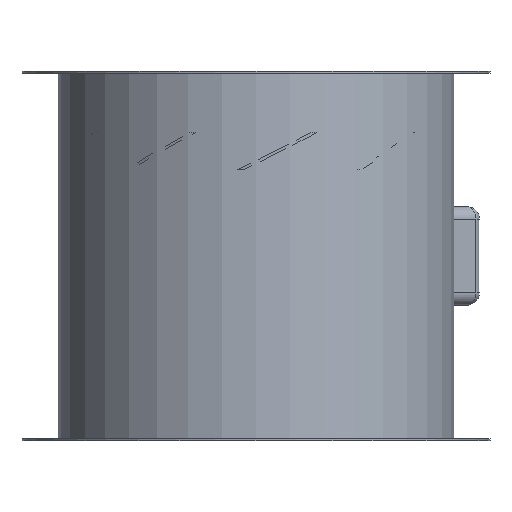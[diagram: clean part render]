
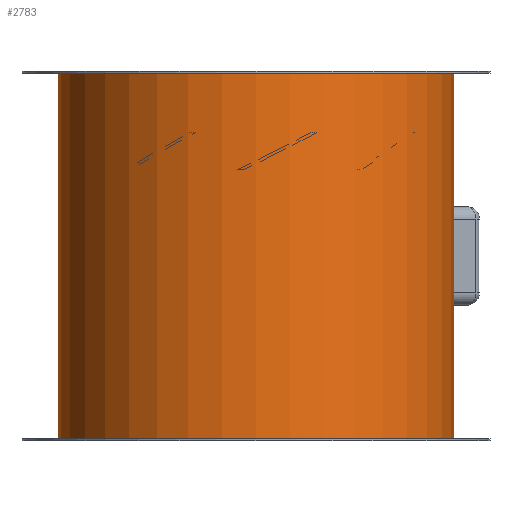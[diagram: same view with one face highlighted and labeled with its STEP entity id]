
A CAD part, front view. The second image highlights one B-rep face of the part: STEP entity #2783.
In plain terms, the highlighted cylindrical face has radius 160.5 mm (diameter 321 mm), a full revolution.
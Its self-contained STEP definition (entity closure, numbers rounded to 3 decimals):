
#56=FACE_BOUND('',#993,.T.);
#57=FACE_BOUND('',#994,.T.);
#346=B_SPLINE_CURVE_WITH_KNOTS('',3,(#3806,#3807,#3808,#3809,#3810,#3811,
#3812,#3813,#3814,#3815),.UNSPECIFIED.,.F.,.F.,(4,2,2,2,4),(-1.522,
-1.138,-0.753,-0.377,0.),
 .UNSPECIFIED.);
#347=B_SPLINE_CURVE_WITH_KNOTS('',3,(#3841,#3842,#3843,#3844,#3845,#3846,
#3847,#3848,#3849,#3850),.UNSPECIFIED.,.F.,.F.,(4,2,2,2,4),(0.,0.377,
0.753,1.138,1.522),.UNSPECIFIED.);
#348=B_SPLINE_CURVE_WITH_KNOTS('',3,(#3856,#3857,#3858,#3859,#3860,#3861,
#3862,#3863,#3864,#3865),.UNSPECIFIED.,.F.,.F.,(4,2,2,2,4),(1.515,
1.899,2.284,2.66,3.037),
 .UNSPECIFIED.);
#349=B_SPLINE_CURVE_WITH_KNOTS('',3,(#3874,#3875,#3876,#3877,#3878,#3879,
#3880,#3881,#3882,#3883),.UNSPECIFIED.,.F.,.F.,(4,2,2,2,4),(3.037,
3.416,3.795,4.177,4.559),
 .UNSPECIFIED.);
#426=LINE('',#3889,#552);
#467=LINE('',#4341,#593);
#552=VECTOR('',#3157,10.);
#593=VECTOR('',#3284,10.);
#700=CYLINDRICAL_SURFACE('',#3069,160.5);
#833=FACE_OUTER_BOUND('',#992,.T.);
#992=EDGE_LOOP('',(#2554));
#993=EDGE_LOOP('',(#2555,#2556,#2557,#2558,#2559,#2560,#2561,#2562));
#994=EDGE_LOOP('',(#2563));
#1063=CIRCLE('',#2824,160.5);
#1094=CIRCLE('',#2870,160.5);
#1176=CIRCLE('',#3070,160.5);
#1177=CIRCLE('',#3071,160.5);
#1190=VERTEX_POINT('',#3804);
#1191=VERTEX_POINT('',#3805);
#1198=VERTEX_POINT('',#3839);
#1199=VERTEX_POINT('',#3840);
#1200=VERTEX_POINT('',#3854);
#1201=VERTEX_POINT('',#3855);
#1202=VERTEX_POINT('',#3872);
#1203=VERTEX_POINT('',#3873);
#1457=VERTEX_POINT('',#5412);
#1458=VERTEX_POINT('',#5414);
#1473=EDGE_CURVE('',#1190,#1191,#346,.F.);
#1486=EDGE_CURVE('',#1198,#1199,#347,.F.);
#1489=EDGE_CURVE('',#1200,#1201,#348,.F.);
#1494=EDGE_CURVE('',#1202,#1203,#349,.F.);
#1497=EDGE_CURVE('',#1198,#1191,#1063,.T.);
#1498=EDGE_CURVE('',#1190,#1203,#426,.T.);
#1589=EDGE_CURVE('',#1200,#1199,#467,.T.);
#1590=EDGE_CURVE('',#1202,#1201,#1094,.T.);
#1852=EDGE_CURVE('',#1457,#1457,#1176,.F.);
#1853=EDGE_CURVE('',#1458,#1458,#1177,.T.);
#2554=ORIENTED_EDGE('',*,*,#1852,.T.);
#2555=ORIENTED_EDGE('',*,*,#1497,.T.);
#2556=ORIENTED_EDGE('',*,*,#1473,.F.);
#2557=ORIENTED_EDGE('',*,*,#1498,.T.);
#2558=ORIENTED_EDGE('',*,*,#1494,.F.);
#2559=ORIENTED_EDGE('',*,*,#1590,.T.);
#2560=ORIENTED_EDGE('',*,*,#1489,.F.);
#2561=ORIENTED_EDGE('',*,*,#1589,.T.);
#2562=ORIENTED_EDGE('',*,*,#1486,.F.);
#2563=ORIENTED_EDGE('',*,*,#1853,.T.);
#2783=ADVANCED_FACE('',(#833,#56,#57),#700,.T.);
#2824=AXIS2_PLACEMENT_3D('',#3887,#3153,#3154);
#2870=AXIS2_PLACEMENT_3D('',#4343,#3287,#3288);
#3069=AXIS2_PLACEMENT_3D('',#5411,#3753,#3754);
#3070=AXIS2_PLACEMENT_3D('',#5413,#3755,#3756);
#3071=AXIS2_PLACEMENT_3D('',#5415,#3757,#3758);
#3153=DIRECTION('center_axis',(0.,0.,-1.));
#3154=DIRECTION('ref_axis',(-1.,0.,0.));
#3157=DIRECTION('',(0.,0.,1.));
#3284=DIRECTION('',(0.,0.,-1.));
#3287=DIRECTION('center_axis',(0.,0.,1.));
#3288=DIRECTION('ref_axis',(-1.,0.,0.));
#3753=DIRECTION('center_axis',(0.,0.,1.));
#3754=DIRECTION('ref_axis',(-1.,0.,0.));
#3755=DIRECTION('center_axis',(0.,0.,-1.));
#3756=DIRECTION('ref_axis',(-1.,0.,0.));
#3757=DIRECTION('center_axis',(0.,0.,-1.));
#3758=DIRECTION('ref_axis',(-1.,0.,0.));
#3804=CARTESIAN_POINT('',(136.866,83.833,-30.));
#3805=CARTESIAN_POINT('',(131.258,92.367,-40.));
#3806=CARTESIAN_POINT('Ctrl Pts',(131.258,92.367,-40.));
#3807=CARTESIAN_POINT('Ctrl Pts',(131.995,91.319,-40.));
#3808=CARTESIAN_POINT('Ctrl Pts',(132.768,90.191,-39.747));
#3809=CARTESIAN_POINT('Ctrl Pts',(134.169,88.094,-38.717));
#3810=CARTESIAN_POINT('Ctrl Pts',(134.796,87.126,-37.942));
#3811=CARTESIAN_POINT('Ctrl Pts',(135.769,85.603,-36.162));
#3812=CARTESIAN_POINT('Ctrl Pts',(136.183,84.939,-35.045));
#3813=CARTESIAN_POINT('Ctrl Pts',(136.732,84.054,-32.592));
#3814=CARTESIAN_POINT('Ctrl Pts',(136.866,83.833,-31.256));
#3815=CARTESIAN_POINT('Ctrl Pts',(136.866,83.833,-30.));
#3839=CARTESIAN_POINT('',(92.367,131.258,-40.));
#3840=CARTESIAN_POINT('',(83.833,136.866,-30.));
#3841=CARTESIAN_POINT('Ctrl Pts',(83.833,136.866,-30.));
#3842=CARTESIAN_POINT('Ctrl Pts',(83.833,136.866,-31.256));
#3843=CARTESIAN_POINT('Ctrl Pts',(84.054,136.732,-32.592));
#3844=CARTESIAN_POINT('Ctrl Pts',(84.939,136.183,-35.045));
#3845=CARTESIAN_POINT('Ctrl Pts',(85.603,135.769,-36.162));
#3846=CARTESIAN_POINT('Ctrl Pts',(87.126,134.796,-37.942));
#3847=CARTESIAN_POINT('Ctrl Pts',(88.094,134.169,-38.717));
#3848=CARTESIAN_POINT('Ctrl Pts',(90.191,132.768,-39.747));
#3849=CARTESIAN_POINT('Ctrl Pts',(91.319,131.995,-40.));
#3850=CARTESIAN_POINT('Ctrl Pts',(92.367,131.258,-40.));
#3854=CARTESIAN_POINT('',(83.833,136.866,30.));
#3855=CARTESIAN_POINT('',(92.367,131.258,40.));
#3856=CARTESIAN_POINT('Ctrl Pts',(92.367,131.258,40.));
#3857=CARTESIAN_POINT('Ctrl Pts',(91.319,131.995,40.));
#3858=CARTESIAN_POINT('Ctrl Pts',(90.191,132.768,39.747));
#3859=CARTESIAN_POINT('Ctrl Pts',(88.094,134.169,38.717));
#3860=CARTESIAN_POINT('Ctrl Pts',(87.126,134.796,37.942));
#3861=CARTESIAN_POINT('Ctrl Pts',(85.603,135.769,36.162));
#3862=CARTESIAN_POINT('Ctrl Pts',(84.939,136.183,35.045));
#3863=CARTESIAN_POINT('Ctrl Pts',(84.054,136.732,32.592));
#3864=CARTESIAN_POINT('Ctrl Pts',(83.833,136.866,31.256));
#3865=CARTESIAN_POINT('Ctrl Pts',(83.833,136.866,30.));
#3872=CARTESIAN_POINT('',(131.258,92.367,40.));
#3873=CARTESIAN_POINT('',(136.866,83.833,30.));
#3874=CARTESIAN_POINT('Ctrl Pts',(136.866,83.833,30.));
#3875=CARTESIAN_POINT('Ctrl Pts',(136.866,83.833,31.262));
#3876=CARTESIAN_POINT('Ctrl Pts',(136.73,84.056,32.606));
#3877=CARTESIAN_POINT('Ctrl Pts',(136.176,84.95,35.069));
#3878=CARTESIAN_POINT('Ctrl Pts',(135.758,85.62,36.189));
#3879=CARTESIAN_POINT('Ctrl Pts',(134.781,87.15,37.962));
#3880=CARTESIAN_POINT('Ctrl Pts',(134.155,88.115,38.73));
#3881=CARTESIAN_POINT('Ctrl Pts',(132.761,90.202,39.749));
#3882=CARTESIAN_POINT('Ctrl Pts',(131.991,91.325,40.));
#3883=CARTESIAN_POINT('Ctrl Pts',(131.258,92.367,40.));
#3887=CARTESIAN_POINT('Origin',(0.,0.,-40.));
#3889=CARTESIAN_POINT('',(136.866,83.833,0.));
#4341=CARTESIAN_POINT('',(83.833,136.866,0.));
#4343=CARTESIAN_POINT('Origin',(0.,0.,40.));
#5411=CARTESIAN_POINT('Origin',(0.,0.,0.));
#5412=CARTESIAN_POINT('',(160.5,0.,-148.5));
#5413=CARTESIAN_POINT('Origin',(0.,0.,-148.5));
#5414=CARTESIAN_POINT('',(160.5,0.,148.5));
#5415=CARTESIAN_POINT('Origin',(0.,0.,148.5));
